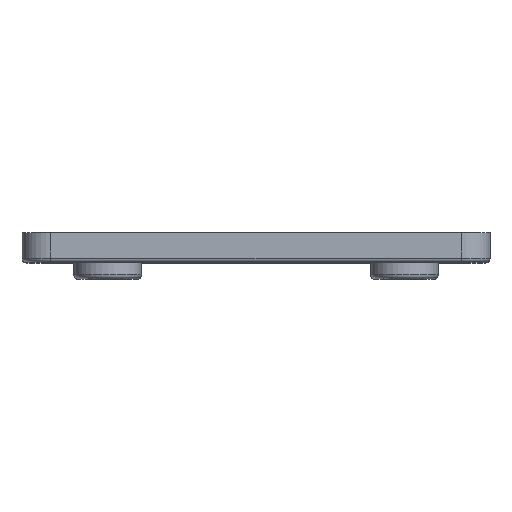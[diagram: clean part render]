
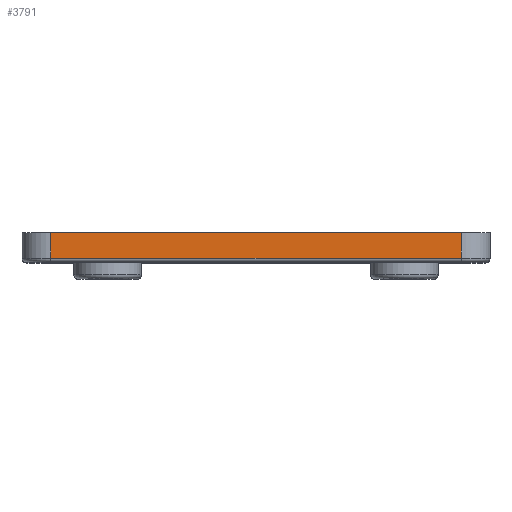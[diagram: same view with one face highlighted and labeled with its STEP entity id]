
A CAD part, top view. The second image highlights one B-rep face of the part: STEP entity #3791.
In plain terms, the highlighted planar face has unit normal (0, 0, 1).
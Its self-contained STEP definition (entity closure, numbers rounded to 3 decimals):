
#261=PLANE('',#4072);
#591=LINE('',#6656,#958);
#597=LINE('',#6687,#964);
#598=LINE('',#6691,#965);
#610=LINE('',#6726,#977);
#958=VECTOR('',#4835,10.);
#964=VECTOR('',#4879,10.);
#965=VECTOR('',#4884,10.);
#977=VECTOR('',#4914,10.);
#1235=FACE_OUTER_BOUND('',#1460,.T.);
#1460=EDGE_LOOP('',(#3471,#3472,#3473,#3474));
#1904=VERTEX_POINT('',#6650);
#1905=VERTEX_POINT('',#6654);
#1911=VERTEX_POINT('',#6686);
#1912=VERTEX_POINT('',#6690);
#2419=EDGE_CURVE('',#1905,#1904,#591,.T.);
#2434=EDGE_CURVE('',#1904,#1911,#597,.T.);
#2436=EDGE_CURVE('',#1911,#1912,#598,.F.);
#2454=EDGE_CURVE('',#1912,#1905,#610,.T.);
#3471=ORIENTED_EDGE('',*,*,#2419,.F.);
#3472=ORIENTED_EDGE('',*,*,#2454,.F.);
#3473=ORIENTED_EDGE('',*,*,#2436,.F.);
#3474=ORIENTED_EDGE('',*,*,#2434,.F.);
#3791=ADVANCED_FACE('',(#1235),#261,.F.);
#4072=AXIS2_PLACEMENT_3D('',#6727,#4915,#4916);
#4835=DIRECTION('',(-1.,0.,0.));
#4879=DIRECTION('',(0.,1.,0.));
#4884=DIRECTION('',(-1.,0.,0.));
#4914=DIRECTION('',(0.,-1.,0.));
#4915=DIRECTION('center_axis',(0.,0.,-1.));
#4916=DIRECTION('ref_axis',(0.,-1.,0.));
#6650=CARTESIAN_POINT('',(1.588,0.5,1.912));
#6654=CARTESIAN_POINT('',(51.412,0.5,1.912));
#6656=CARTESIAN_POINT('',(29.202,0.5,1.912));
#6686=CARTESIAN_POINT('',(1.588,3.6,1.912));
#6687=CARTESIAN_POINT('',(1.588,2.425,1.912));
#6690=CARTESIAN_POINT('',(51.412,3.6,1.912));
#6691=CARTESIAN_POINT('',(54.162,3.6,1.912));
#6726=CARTESIAN_POINT('',(51.412,1.925,1.912));
#6727=CARTESIAN_POINT('Origin',(54.162,2.85,1.912));
